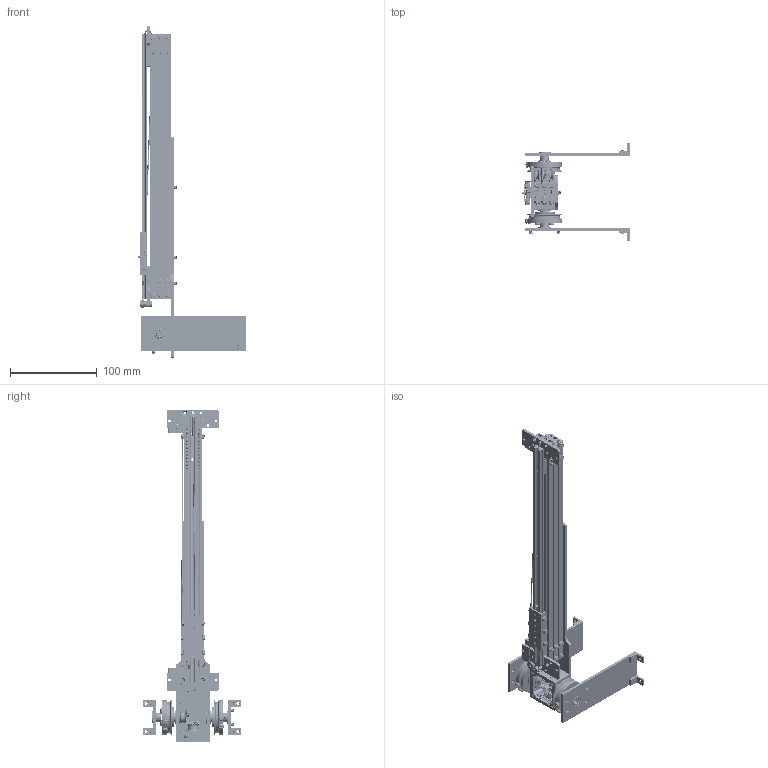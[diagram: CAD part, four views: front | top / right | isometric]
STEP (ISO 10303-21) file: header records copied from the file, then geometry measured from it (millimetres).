
FILE_DESCRIPTION( ('This file contains a STEP AP42 implementation' ,'as created by ZW3D STEP Interface translator.') ,'2;1' );
FILE_NAME( 'AutoCtrlSlideModule.stp' ,'24 221.2257 8', (''), ('ZWCAD Software Co.'), 'Version 1.0', 'ZW3D to STEP translator', '' );
FILE_SCHEMA(('AUTOMOTIVE_DESIGN { 1 0 10303 214 1 1 1 1 }'));
Length unit declared in the file: millimetre
Products named in the file (43): 0; DemoSlideModule; BL-300C-2M; OuterSlide300C; StopperScrew; BallBearing; PulleyModule; VPulley; NoHeadScrew001; PulleyBracketV4; PulleyModule1; M3; M2; InnerSlide300C; BL-300C-2M1; PulleyModule2; PulleyModule3; BL-300C-2M2; PulleyModule4; PulleyModule5; M4-6-5.5; StringHolder; SlideHolder; M4-8-5.5; SlideTower; OneHoleL_Beam; BL-GearBoxWithGears; M0.7T22BevelGear; 1611-0514-4008-Hex; BL-GearBox3; 1611-0514-0006-BB6; Pulley1; BL-7mmHexAdapter; 8mmSpace1mm; M4Button; 8mmSpacer5mm; M3Waher; M3SelfTapping; BL-SM01; SlideModule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
Assembly tree (262 placements, depth 4):
  0
  DemoSlideModule
    BL-300C-2M
      OuterSlide300C
      StopperScrew  x8
      BallBearing  x30
      PulleyModule
        VPulley
        NoHeadScrew001
        PulleyBracketV4
      PulleyModule1
        VPulley
        NoHeadScrew001
        PulleyBracketV4
      M3  x8
      M2  x2
      InnerSlide300C
    BL-300C-2M1
      OuterSlide300C
      StopperScrew  x8
      BallBearing  x30
      PulleyModule2
        VPulley
        NoHeadScrew001
        PulleyBracketV4
      PulleyModule3
        VPulley
        NoHeadScrew001
        PulleyBracketV4
      M3  x8
      M2  x2
      InnerSlide300C
    BL-300C-2M2
      OuterSlide300C
      StopperScrew  x8
      BallBearing  x30
      PulleyModule4
        VPulley
        NoHeadScrew001
        PulleyBracketV4
      PulleyModule5
        VPulley
        NoHeadScrew001
        PulleyBracketV4
      M3  x8
      M2  x2
      InnerSlide300C
    M4-6-5.5  x12
    StringHolder  x2
    SlideHolder
    M4-8-5.5  x3
    SlideTower  x2
    OneHoleL_Beam  x4
    BL-GearBoxWithGears
      M0.7T22BevelGear
      1611-0514-4008-Hex  x2
      BL-GearBox3
      1611-0514-0006-BB6
      M4-8-5.5
    1611-0514-4008-Hex  x4
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Bounding box: 123.45 x 114 x 382.82 mm (x, y, z)
Volume: 225188.5 mm3; surface area: 232042.5 mm2
Topology: 297 solids, 305 shells, 9766 faces, 25946 edges, 16544 vertices
Faces by surface type: cylinder 3921, bspline 2376, plane 1540, cone 1474, torus 251, sphere 204
Full cylindrical faces by diameter (mm): 2 x108, 2.4 x4, 2.5 x274, 2.631 x1, 2.716 x1, 3 x408, 3.05 x12, 3.3 x206, 3.5 x74, 3.6 x265, 4 x177, 6 x14, 6.8 x10, 7 x1, 8 x4, 10 x6, 12.232 x2, 14 x5, 23 x2, 35.02 x2, 40 x4
Entity records: 445214 total; most frequent: CARTESIAN_POINT 362148, ORIENTED_EDGE 21727, EDGE_CURVE 10865, DIRECTION 9559, VERTEX_POINT 7054, B_SPLINE_CURVE_WITH_KNOTS 4570, EDGE_LOOP 4188, FACE_OUTER_BOUND 3887
